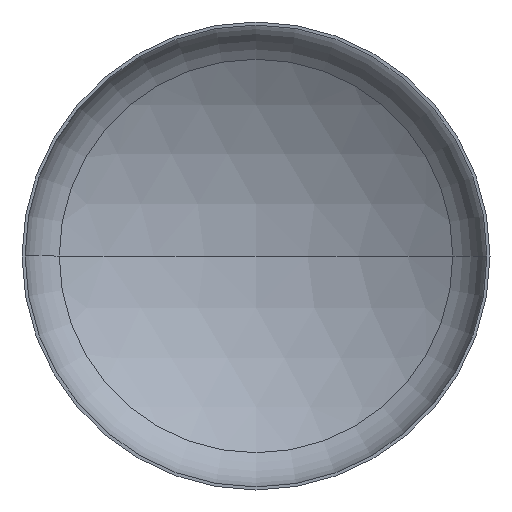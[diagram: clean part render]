
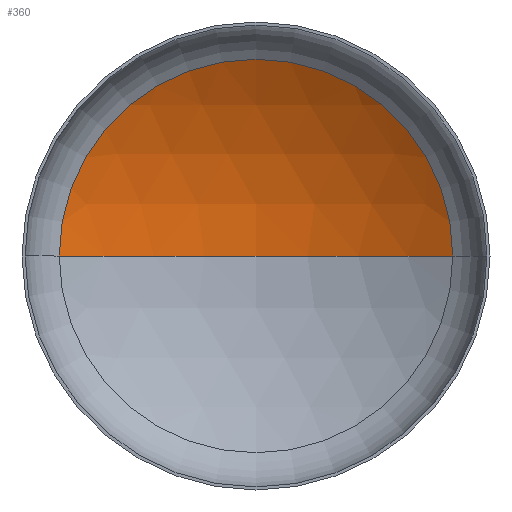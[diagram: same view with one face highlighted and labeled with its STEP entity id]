
A CAD part, front view. The second image highlights one B-rep face of the part: STEP entity #360.
In plain terms, the highlighted spherical face has radius 2080 mm.
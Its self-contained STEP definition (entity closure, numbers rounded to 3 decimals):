
#1 = AXIS2_PLACEMENT_3D ( 'NONE', #97, #299, #148 ) ;
#5 = ORIENTED_EDGE ( 'NONE', *, *, #354, .T. ) ;
#6 = AXIS2_PLACEMENT_3D ( 'NONE', #401, #59, #168 ) ;
#8 = EDGE_LOOP ( 'NONE', ( #67, #61, #5 ) ) ;
#16 = AXIS2_PLACEMENT_3D ( 'NONE', #74, #90, #255 ) ;
#25 = VERTEX_POINT ( 'NONE', #278 ) ;
#59 = DIRECTION ( 'NONE',  ( 0., 0., -1. ) ) ;
#61 = ORIENTED_EDGE ( 'NONE', *, *, #389, .T. ) ;
#67 = ORIENTED_EDGE ( 'NONE', *, *, #384, .F. ) ;
#74 = CARTESIAN_POINT ( 'NONE',  ( 0., 395.294, 0. ) ) ;
#90 = DIRECTION ( 'NONE',  ( 0., -1., 0. ) ) ;
#97 = CARTESIAN_POINT ( 'NONE',  ( 0., -1374.234, 0. ) ) ;
#111 = VERTEX_POINT ( 'NONE', #287 ) ;
#116 = VERTEX_POINT ( 'NONE', #192 ) ;
#148 = DIRECTION ( 'NONE',  ( -1., 0., 0. ) ) ;
#168 = DIRECTION ( 'NONE',  ( -1., 0., 0. ) ) ;
#174 = CIRCLE ( 'NONE', #1, 2080. ) ;
#192 = CARTESIAN_POINT ( 'NONE',  ( -1093.238, 395.294, 0. ) ) ;
#227 = DIRECTION ( 'NONE',  ( 0., 0., 1. ) ) ;
#249 = AXIS2_PLACEMENT_3D ( 'NONE', #374, #227, #326 ) ;
#255 = DIRECTION ( 'NONE',  ( 1., 0., 0. ) ) ;
#258 = CIRCLE ( 'NONE', #16, 1093.238 ) ;
#278 = CARTESIAN_POINT ( 'NONE',  ( 0., 705.766, 0. ) ) ;
#287 = CARTESIAN_POINT ( 'NONE',  ( 1093.238, 395.294, 0. ) ) ;
#299 = DIRECTION ( 'NONE',  ( 0., 0., -1. ) ) ;
#319 = SPHERICAL_SURFACE ( 'NONE', #6, 2080. ) ;
#326 = DIRECTION ( 'NONE',  ( 1., 0., 0. ) ) ;
#354 = EDGE_CURVE ( 'NONE', #111, #116, #258, .T. ) ;
#360 = ADVANCED_FACE ( 'NONE', ( #378 ), #319, .F. ) ;
#363 = CIRCLE ( 'NONE', #249, 2080. ) ;
#374 = CARTESIAN_POINT ( 'NONE',  ( 0., -1374.234, 0. ) ) ;
#378 = FACE_OUTER_BOUND ( 'NONE', #8, .T. ) ;
#384 = EDGE_CURVE ( 'NONE', #25, #116, #363, .T. ) ;
#389 = EDGE_CURVE ( 'NONE', #25, #111, #174, .T. ) ;
#401 = CARTESIAN_POINT ( 'NONE',  ( 0., -1374.234, 0. ) ) ;
